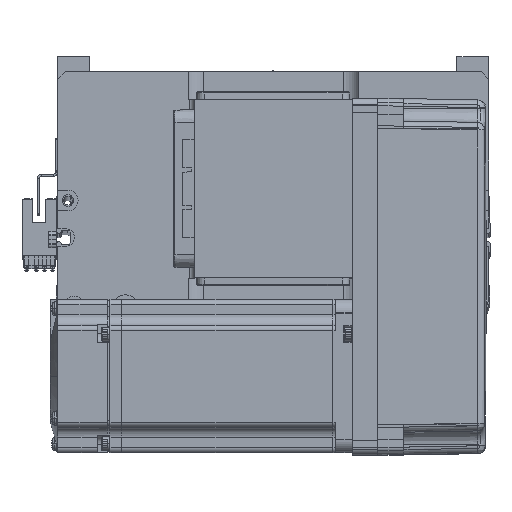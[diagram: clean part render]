
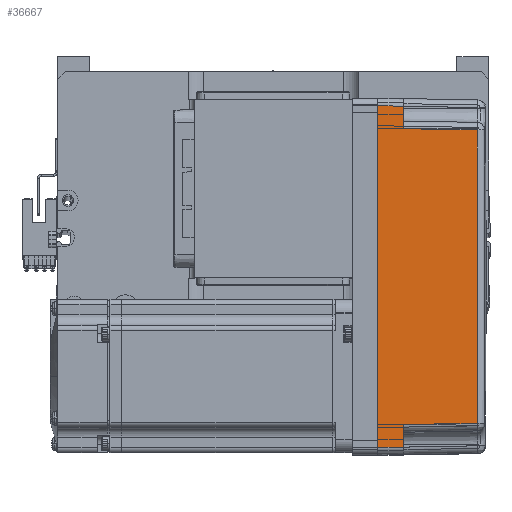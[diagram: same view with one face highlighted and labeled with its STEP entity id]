
A CAD part, top view. The second image highlights one B-rep face of the part: STEP entity #36667.
In plain terms, the highlighted planar face has unit normal (0.018, 0, 1) as drawn and (0, 1, 0.017) by its records, which use the part's own axes.
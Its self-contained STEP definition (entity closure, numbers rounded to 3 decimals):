
#103 = DIRECTION ( 'NONE',  ( 0., 1., 0.017 ) ) ;
#1249 = EDGE_CURVE ( 'NONE', #36858, #8501, #33078, .T. ) ;
#1893 = VECTOR ( 'NONE', #43146, 1000. ) ;
#1940 = VECTOR ( 'NONE', #49000, 1000. ) ;
#2061 = VECTOR ( 'NONE', #35665, 1000. ) ;
#3252 = LINE ( 'NONE', #54872, #59584 ) ;
#3954 = VERTEX_POINT ( 'NONE', #15673 ) ;
#4846 = CARTESIAN_POINT ( 'NONE',  ( 70., 36., 0. ) ) ;
#5379 = CARTESIAN_POINT ( 'NONE',  ( 70., 35.825, 10. ) ) ;
#6168 = CARTESIAN_POINT ( 'NONE',  ( -66.826, 35.825, 10. ) ) ;
#7467 = VERTEX_POINT ( 'NONE', #39832 ) ;
#8435 = ORIENTED_EDGE ( 'NONE', *, *, #27510, .T. ) ;
#8501 = VERTEX_POINT ( 'NONE', #6168 ) ;
#13132 = EDGE_CURVE ( 'NONE', #36858, #60951, #61148, .T. ) ;
#13357 = CARTESIAN_POINT ( 'NONE',  ( -67., 36., 0. ) ) ;
#13662 = CARTESIAN_POINT ( 'NONE',  ( 66.826, 35.825, 10. ) ) ;
#13815 = CARTESIAN_POINT ( 'NONE',  ( 57.495, 35.32, 38.985 ) ) ;
#14238 = CARTESIAN_POINT ( 'NONE',  ( 0., 36., 0. ) ) ;
#14906 = LINE ( 'NONE', #5379, #1940 ) ;
#15589 = CARTESIAN_POINT ( 'NONE',  ( -57.495, 35.32, 38.985 ) ) ;
#15673 = CARTESIAN_POINT ( 'NONE',  ( -57.495, 35.32, 38.985 ) ) ;
#15944 = ORIENTED_EDGE ( 'NONE', *, *, #31851, .T. ) ;
#15986 = B_SPLINE_CURVE_WITH_KNOTS ( 'NONE', 3,
 ( #15589, #19852, #26182, #59805 ),
 .UNSPECIFIED., .F., .F.,
 ( 4, 4 ),
 ( 0., 1. ),
 .UNSPECIFIED. ) ;
#16776 = VERTEX_POINT ( 'NONE', #13815 ) ;
#19852 = CARTESIAN_POINT ( 'NONE',  ( -19.165, 35.316, 39.181 ) ) ;
#21188 = CARTESIAN_POINT ( 'NONE',  ( 70., 35.825, 10. ) ) ;
#22207 = ORIENTED_EDGE ( 'NONE', *, *, #44780, .T. ) ;
#22605 = ORIENTED_EDGE ( 'NONE', *, *, #13132, .F. ) ;
#22639 = LINE ( 'NONE', #30394, #2061 ) ;
#23229 = ORIENTED_EDGE ( 'NONE', *, *, #1249, .T. ) ;
#23625 = VECTOR ( 'NONE', #50738, 1000. ) ;
#25001 = AXIS2_PLACEMENT_3D ( 'NONE', #4846, #103, #49087 ) ;
#26182 = CARTESIAN_POINT ( 'NONE',  ( 19.165, 35.316, 39.181 ) ) ;
#27510 = EDGE_CURVE ( 'NONE', #7467, #57544, #14906, .T. ) ;
#27517 = ORIENTED_EDGE ( 'NONE', *, *, #31757, .T. ) ;
#28699 = DIRECTION ( 'NONE',  ( 1., 0., 0. ) ) ;
#30394 = CARTESIAN_POINT ( 'NONE',  ( 67.001, 36.001, -0.052 ) ) ;
#30932 = FACE_OUTER_BOUND ( 'NONE', #32005, .T. ) ;
#31352 = CARTESIAN_POINT ( 'NONE',  ( -67., 36., 0. ) ) ;
#31439 = DIRECTION ( 'NONE',  ( 0.017, 0.017, -1. ) ) ;
#31757 = EDGE_CURVE ( 'NONE', #8501, #62927, #56366, .T. ) ;
#31851 = EDGE_CURVE ( 'NONE', #62927, #3954, #58629, .T. ) ;
#32005 = EDGE_LOOP ( 'NONE', ( #23229, #27517, #15944, #22207, #53786, #8435, #61755, #22605 ) ) ;
#33078 = LINE ( 'NONE', #13357, #1893 ) ;
#33488 = EDGE_CURVE ( 'NONE', #60951, #57544, #22639, .T. ) ;
#35665 = DIRECTION ( 'NONE',  ( -0.017, -0.017, 1. ) ) ;
#36039 = VECTOR ( 'NONE', #28699, 1000. ) ;
#36667 = ADVANCED_FACE ( 'NONE', ( #30932 ), #44165, .T. ) ;
#36858 = VERTEX_POINT ( 'NONE', #31352 ) ;
#39832 = CARTESIAN_POINT ( 'NONE',  ( 58., 35.825, 10. ) ) ;
#40925 = CARTESIAN_POINT ( 'NONE',  ( -58., 35.825, 10. ) ) ;
#41727 = CARTESIAN_POINT ( 'NONE',  ( 67., 36., 0. ) ) ;
#43146 = DIRECTION ( 'NONE',  ( 0.017, -0.017, 1. ) ) ;
#44165 = PLANE ( 'NONE',  #25001 ) ;
#44780 = EDGE_CURVE ( 'NONE', #3954, #16776, #15986, .T. ) ;
#45451 = EDGE_CURVE ( 'NONE', #16776, #7467, #3252, .T. ) ;
#46054 = DIRECTION ( 'NONE',  ( 1., 0., 0. ) ) ;
#49000 = DIRECTION ( 'NONE',  ( 1., 0., 0. ) ) ;
#49087 = DIRECTION ( 'NONE',  ( 0., -0.017, 1. ) ) ;
#50024 = CARTESIAN_POINT ( 'NONE',  ( -58., 35.825, 10. ) ) ;
#50738 = DIRECTION ( 'NONE',  ( 0.017, -0.017, 1. ) ) ;
#53364 = VECTOR ( 'NONE', #46054, 1000. ) ;
#53786 = ORIENTED_EDGE ( 'NONE', *, *, #45451, .T. ) ;
#54872 = CARTESIAN_POINT ( 'NONE',  ( 57.495, 35.32, 38.985 ) ) ;
#56366 = LINE ( 'NONE', #21188, #53364 ) ;
#57544 = VERTEX_POINT ( 'NONE', #13662 ) ;
#58629 = LINE ( 'NONE', #40925, #23625 ) ;
#59584 = VECTOR ( 'NONE', #31439, 1000. ) ;
#59805 = CARTESIAN_POINT ( 'NONE',  ( 57.495, 35.32, 38.985 ) ) ;
#60951 = VERTEX_POINT ( 'NONE', #41727 ) ;
#61148 = LINE ( 'NONE', #14238, #36039 ) ;
#61755 = ORIENTED_EDGE ( 'NONE', *, *, #33488, .F. ) ;
#62927 = VERTEX_POINT ( 'NONE', #50024 ) ;
